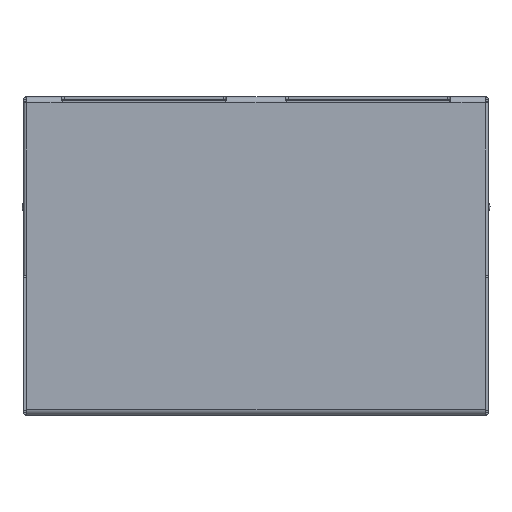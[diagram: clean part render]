
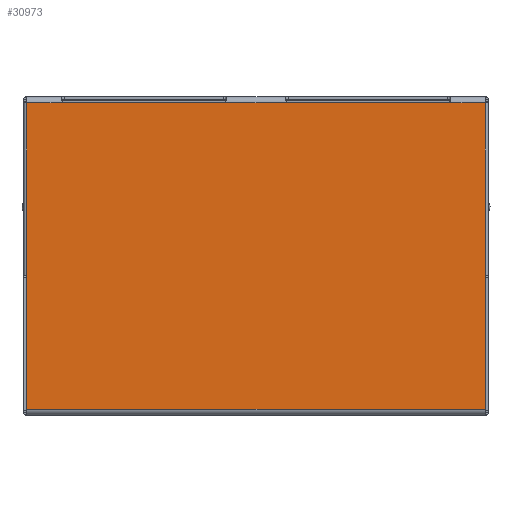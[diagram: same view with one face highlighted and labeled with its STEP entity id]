
A CAD part, left-side view. The second image highlights one B-rep face of the part: STEP entity #30973.
In plain terms, the highlighted planar face has unit normal (-1, 0, 0) as drawn and (0, 0, -1) by its records, which use the part's own axes.
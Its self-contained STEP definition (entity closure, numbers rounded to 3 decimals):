
#26327=DIRECTION('',(0.,1.,0.));
#26328=VECTOR('',#26327,10.55);
#26329=CARTESIAN_POINT('',(-20.5,-12.7,-6.525));
#26330=LINE('',#26329,#26328);
#26387=DIRECTION('',(-1.,0.,0.));
#26388=VECTOR('',#26387,11.45);
#26389=CARTESIAN_POINT('',(-9.05,-15.2,-6.525));
#26390=LINE('',#26389,#26388);
#26395=DIRECTION('',(1.,0.,0.));
#26396=VECTOR('',#26395,8.85);
#26397=CARTESIAN_POINT('',(-9.05,-15.2,-6.525));
#26398=LINE('',#26397,#26396);
#26426=DIRECTION('',(0.,1.,0.));
#26427=VECTOR('',#26426,2.5);
#26428=CARTESIAN_POINT('',(-20.5,-15.2,-6.525));
#26429=LINE('',#26428,#26427);
#26604=DIRECTION('',(0.,1.,0.));
#26605=VECTOR('',#26604,10.55);
#26606=CARTESIAN_POINT('',(-20.5,2.15,-6.525));
#26607=LINE('',#26606,#26605);
#26697=DIRECTION('',(0.,1.,0.));
#26698=VECTOR('',#26697,4.3);
#26699=CARTESIAN_POINT('',(-20.5,-2.15,-6.525));
#26700=LINE('',#26699,#26698);
#26755=DIRECTION('',(0.,1.,0.));
#26756=VECTOR('',#26755,2.5);
#26757=CARTESIAN_POINT('',(-20.5,12.7,-6.525));
#26758=LINE('',#26757,#26756);
#26772=DIRECTION('',(1.,0.,0.));
#26773=VECTOR('',#26772,11.45);
#26774=CARTESIAN_POINT('',(-20.5,15.2,-6.525));
#26775=LINE('',#26774,#26773);
#26793=DIRECTION('',(1.,0.,0.));
#26794=VECTOR('',#26793,8.85);
#26795=CARTESIAN_POINT('',(-9.05,15.2,-6.525));
#26796=LINE('',#26795,#26794);
#26819=DIRECTION('',(0.,-1.,0.));
#26820=VECTOR('',#26819,30.4);
#26821=CARTESIAN_POINT('',(-0.2,15.2,-6.525));
#26822=LINE('',#26821,#26820);
#29725=CARTESIAN_POINT('',(-0.2,-15.2,-6.525));
#29726=VERTEX_POINT('',#29725);
#29747=CARTESIAN_POINT('',(-20.5,-12.7,-6.525));
#29748=VERTEX_POINT('',#29747);
#29749=CARTESIAN_POINT('',(-20.5,-2.15,-6.525));
#29750=VERTEX_POINT('',#29749);
#29756=CARTESIAN_POINT('',(-20.5,-15.2,-6.525));
#29757=VERTEX_POINT('',#29756);
#29762=CARTESIAN_POINT('',(-9.05,-15.2,-6.525));
#29763=VERTEX_POINT('',#29762);
#29766=CARTESIAN_POINT('',(-0.2,15.2,-6.525));
#29767=VERTEX_POINT('',#29766);
#29768=CARTESIAN_POINT('',(-9.05,15.2,-6.525));
#29769=VERTEX_POINT('',#29768);
#29770=CARTESIAN_POINT('',(-20.5,15.2,-6.525));
#29771=VERTEX_POINT('',#29770);
#29772=CARTESIAN_POINT('',(-20.5,12.7,-6.525));
#29773=VERTEX_POINT('',#29772);
#29774=CARTESIAN_POINT('',(-20.5,2.15,-6.525));
#29775=VERTEX_POINT('',#29774);
#30948=CARTESIAN_POINT('',(0.2,-15.4,-6.525));
#30949=DIRECTION('',(0.,0.,-1.));
#30950=DIRECTION('',(0.,-1.,0.));
#30951=AXIS2_PLACEMENT_3D('',#30948,#30949,#30950);
#30952=PLANE('',#30951);
#30953=ORIENTED_EDGE('',*,*,#30821,.F.);
#30955=ORIENTED_EDGE('',*,*,#30954,.F.);
#30956=ORIENTED_EDGE('',*,*,#30938,.F.);
#30958=ORIENTED_EDGE('',*,*,#30957,.T.);
#30960=ORIENTED_EDGE('',*,*,#30959,.F.);
#30962=ORIENTED_EDGE('',*,*,#30961,.F.);
#30964=ORIENTED_EDGE('',*,*,#30963,.F.);
#30966=ORIENTED_EDGE('',*,*,#30965,.F.);
#30968=ORIENTED_EDGE('',*,*,#30967,.F.);
#30970=ORIENTED_EDGE('',*,*,#30969,.F.);
#30971=EDGE_LOOP('',(#30953,#30955,#30956,#30958,#30960,#30962,#30964,#30966,
#30968,#30970));
#30972=FACE_OUTER_BOUND('',#30971,.F.);
#30973=ADVANCED_FACE('',(#30972),#30952,.T.);
#30821=EDGE_CURVE('',#29748,#29750,#26330,.T.);
#30938=EDGE_CURVE('',#29763,#29757,#26390,.T.);
#30954=EDGE_CURVE('',#29757,#29748,#26429,.T.);
#30957=EDGE_CURVE('',#29763,#29726,#26398,.T.);
#30959=EDGE_CURVE('',#29767,#29726,#26822,.T.);
#30961=EDGE_CURVE('',#29769,#29767,#26796,.T.);
#30963=EDGE_CURVE('',#29771,#29769,#26775,.T.);
#30965=EDGE_CURVE('',#29773,#29771,#26758,.T.);
#30967=EDGE_CURVE('',#29775,#29773,#26607,.T.);
#30969=EDGE_CURVE('',#29750,#29775,#26700,.T.);
